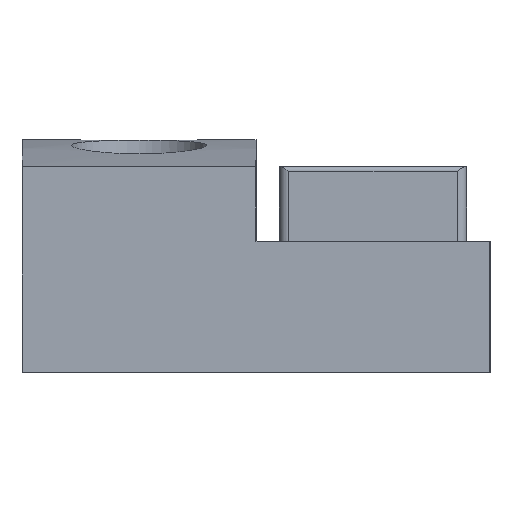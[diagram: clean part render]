
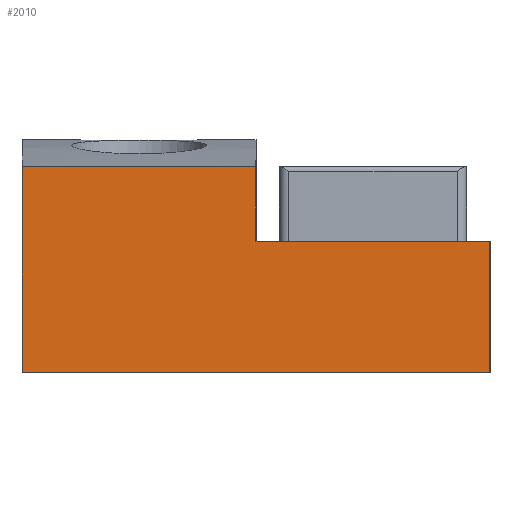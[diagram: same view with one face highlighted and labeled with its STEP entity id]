
A CAD part, left-side view. The second image highlights one B-rep face of the part: STEP entity #2010.
In plain terms, the highlighted planar face has unit normal (-1, 0, 0).
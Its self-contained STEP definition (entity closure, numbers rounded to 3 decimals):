
#100=PLANE('',#2205);
#222=FACE_OUTER_BOUND('',#346,.T.);
#346=EDGE_LOOP('',(#1426,#1427,#1428,#1429,#1430,#1431));
#483=LINE('',#3017,#657);
#489=LINE('',#3100,#663);
#491=LINE('',#3116,#665);
#493=LINE('',#3120,#667);
#495=LINE('',#3124,#669);
#496=LINE('',#3125,#670);
#657=VECTOR('',#2414,10.);
#663=VECTOR('',#2424,10.);
#665=VECTOR('',#2444,10.);
#667=VECTOR('',#2448,10.);
#669=VECTOR('',#2452,10.);
#670=VECTOR('',#2453,10.);
#920=VERTEX_POINT('',#3011);
#922=VERTEX_POINT('',#3015);
#929=VERTEX_POINT('',#3099);
#934=VERTEX_POINT('',#3115);
#935=VERTEX_POINT('',#3119);
#936=VERTEX_POINT('',#3123);
#1116=EDGE_CURVE('',#920,#922,#483,.T.);
#1124=EDGE_CURVE('',#929,#920,#489,.T.);
#1130=EDGE_CURVE('',#934,#929,#491,.T.);
#1132=EDGE_CURVE('',#935,#934,#493,.T.);
#1134=EDGE_CURVE('',#936,#922,#495,.T.);
#1135=EDGE_CURVE('',#935,#936,#496,.T.);
#1426=ORIENTED_EDGE('',*,*,#1116,.T.);
#1427=ORIENTED_EDGE('',*,*,#1134,.F.);
#1428=ORIENTED_EDGE('',*,*,#1135,.F.);
#1429=ORIENTED_EDGE('',*,*,#1132,.T.);
#1430=ORIENTED_EDGE('',*,*,#1130,.T.);
#1431=ORIENTED_EDGE('',*,*,#1124,.T.);
#2010=ADVANCED_FACE('',(#222),#100,.T.);
#2205=AXIS2_PLACEMENT_3D('',#3122,#2450,#2451);
#2414=DIRECTION('',(0.,1.,0.));
#2424=DIRECTION('',(0.,0.,1.));
#2444=DIRECTION('',(0.,1.,0.));
#2448=DIRECTION('',(0.,0.,1.));
#2450=DIRECTION('center_axis',(-1.,0.,0.));
#2451=DIRECTION('ref_axis',(0.,-1.,0.));
#2452=DIRECTION('',(0.,0.,1.));
#2453=DIRECTION('',(0.,1.,0.));
#3011=CARTESIAN_POINT('',(-30.,-12.5,22.));
#3015=CARTESIAN_POINT('',(-30.,12.5,22.));
#3017=CARTESIAN_POINT('',(-30.,12.5,22.));
#3099=CARTESIAN_POINT('',(-30.,-12.5,14.));
#3100=CARTESIAN_POINT('',(-30.,-12.5,7.));
#3115=CARTESIAN_POINT('',(-30.,-37.5,14.));
#3116=CARTESIAN_POINT('',(-30.,-12.5,14.));
#3119=CARTESIAN_POINT('',(-30.,-37.5,0.));
#3120=CARTESIAN_POINT('',(-30.,-37.5,0.));
#3122=CARTESIAN_POINT('Origin',(-30.,12.5,0.));
#3123=CARTESIAN_POINT('',(-30.,12.5,0.));
#3124=CARTESIAN_POINT('',(-30.,12.5,0.));
#3125=CARTESIAN_POINT('',(-30.,-37.5,0.));
